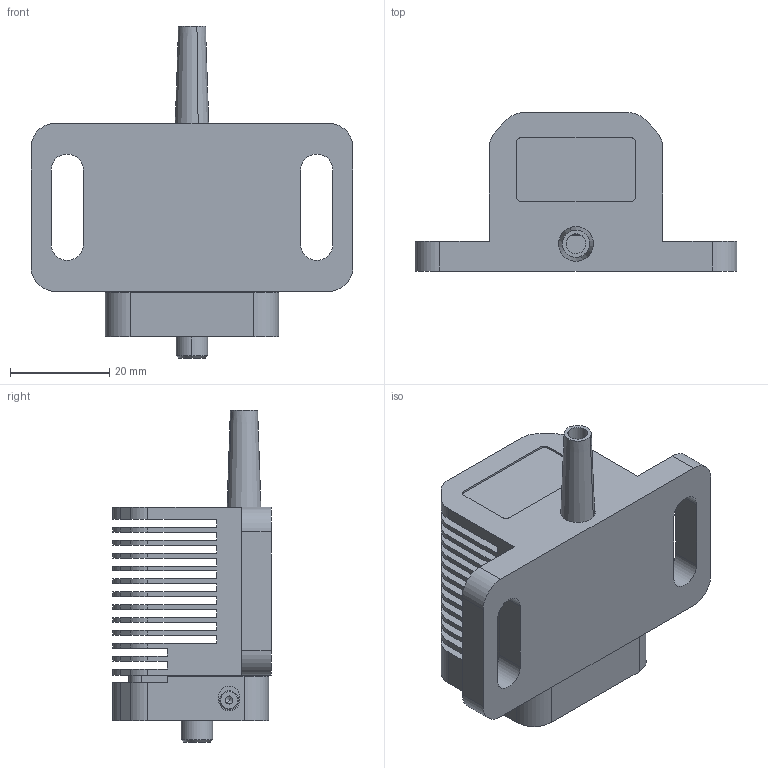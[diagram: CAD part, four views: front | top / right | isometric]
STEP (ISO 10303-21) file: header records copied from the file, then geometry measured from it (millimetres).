
FILE_DESCRIPTION (( 'STEP AP214' ), '1' );
FILE_NAME ('MTN005535-E0W.STEP', '2016-02-24T14:12:52', ( '' ), ( '' ), 'SwSTEP 2.0', 'SolidWorks 2014', '' );
FILE_SCHEMA (( 'AUTOMOTIVE_DESIGN' ));
Length unit declared in the file: millimetre
Products named in the file (1): MTN005535-E0W
Bounding box: 65 x 32 x 67.03 mm (x, y, z)
Volume: 33845.2 mm3; surface area: 33326.5 mm2
Topology: 26 solids, 26 shells, 785 faces, 2068 edges, 1344 vertices
Faces by surface type: plane 503, cylinder 202, bspline 44, cone 28, torus 8
Entity records: 36168 total; most frequent: CARTESIAN_POINT 7763, ORIENTED_EDGE 4100, DIRECTION 3887, EDGE_CURVE 2050, LINE 1511, VECTOR 1511, VERTEX_POINT 1344, AXIS2_PLACEMENT_3D 1188
